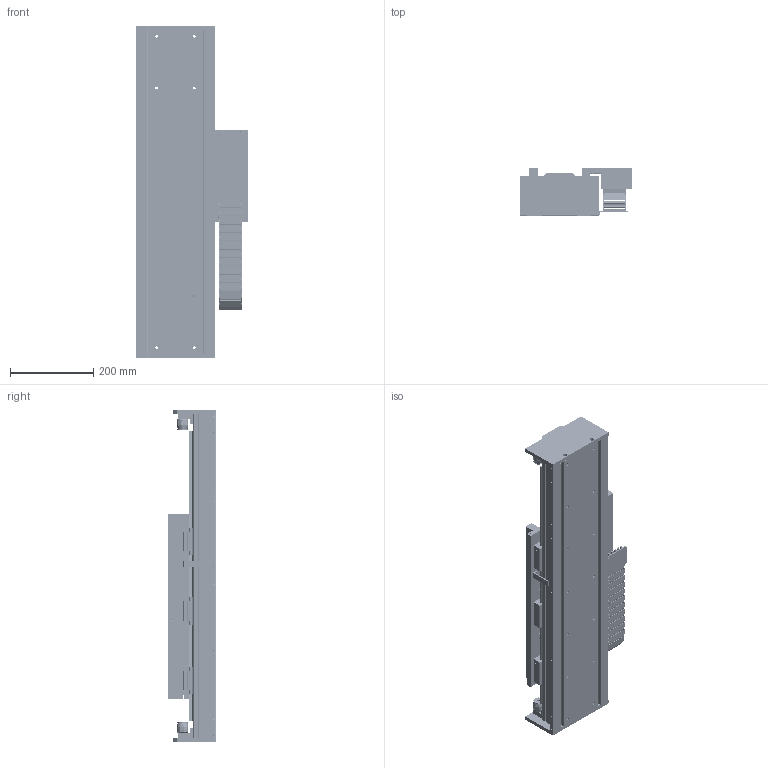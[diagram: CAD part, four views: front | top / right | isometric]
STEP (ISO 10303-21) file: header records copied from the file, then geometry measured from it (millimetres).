
FILE_DESCRIPTION (( 'STEP AP203' ), '1' );
FILE_NAME ('STF50380A-xC1B-Axx.STEP', '2007-10-29T14:44:22', ( 'Yaskawa' ), ( 'Yaskawa' ), 'SwSTEP 2.0', 'SolidWorks 2007', '' );
FILE_SCHEMA (( 'CONFIG_CONTROL_DESIGN' ));
Length unit declared in the file: millimetre
Products named in the file (60): STF50 Large End Stop; STF50-007 End Stop; SGLFW-50A380AP; STF50-005-R2 Cable Router; STCM-R1; STCM-001-R2 Cable Bracket; SSR20W Block; 07.50.038.0_22; STCM-007 Lower E-Chain Bracket; STF50-006 Endplate; STCM-006-R1 Upper E-chain Bracket; Serial Converter; 07.50.038.0_21; 07.50.038.0_30; 07.50.038.0_33; 07.50.038.0_29; 07.50.038.0_37; 07.50.038.0_46; 07.50.038.0_41; 07.50.038.0_45; STF50200 Base_STF50BM-002; SGLFM-50675AC; STF50380A-xC1B-Axx; STF50-001B F50-380 Carriage; STF50-380 Complete Carriage; SSR20 Rail 820_700; Large Bumper; STF50-004 Flag; RGH22B; STF50-003 Renishaw Encoder Bracket; STF50-0028-R1 F50-380 Carriage Horn; STCM-002-R2 Cable Assembly Front; STCM-005-R1 Cable Assembly Cover; STCM-003 Cable Assembly Bottom; STCM-004 Cable Assembly Side; B18.3.1M - 5 x 0.8 x 12 Hex SHCS -- 12NHX_B18.3.1M - 5 x 0.8 x 12 Hex SHCS -- 12NHX; B18.3.1M - 6 x 1.0 x 25 Hex SHCS -- 25NHX_B18.3.1M - 6 x 1.0 x 25 Hex SHCS -- 25NHX; B18.3.4M - 3 x 0.5 x 12 SBHCS --N_B18.3.4M - 3 x 0.5 x 12 SBHCS --N; B18.3.5M - 3 x 0.5 x 12 Socket FCHS  -- 12N_B18.3.5M - 3 x 0.5 x 12 Socket FCHS  -- 12N; 07.50.038.0_27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
Assembly tree (120 placements, depth 4):
  STF50380A-xC1B-Axx
    SSR20 Rail 820_700  x2
    STF50200B
      07.50.038.0_25
      07.50.038.0_23
      07.50.038.0_32
      B18.3.5M - 3 x 0.5 x 6 Socket FCHS  -- 6N_B18.3.5M - 3 x 0.5 x 6 Socket FCHS  -- 6N  x2
      07.50.038.0_40
      07.50.038.0_33
      07.50.038.0_47
      07.50.038.0_27
      07.50.038.0_28
      07.50.038.0_22
      07.50.038.0_46
      07.50.038.0_41
      07.50.038.0_29
      07.50.038.0_35
      07.50.038.0_20
      07.50.038.0_36
      07.50.038.0_38
      07.50.038.0_21
      07.50.038.0_39
      07.50.038.0_44
      07.50.038.0_43
      07.50.038.0_31
      07.50.038.0_34
      07.50.038.0_37
      07.50.038.0_30
      07.50.038.0_45
      07.50.038.0_24
      07.50.038.0_26
      07.50.038.0_42
    STF50 Large End Stop  x4
      STF50-007 End Stop
      Large Bumper
    SGLFM-50675AC
    STF50-006 Endplate  x2
    STF50200 Base_STF50BM-002
    STCM-007 Lower E-Chain Bracket
    STF50-380 Complete Carriage
      B18.3.1M - 5 x 0.8 x 12 Hex SHCS -- 12NHX_B18.3.1M - 5 x 0.8 x 12 Hex SHCS -- 12NHX  x34
      B18.3.5M - 3 x 0.5 x 12 Socket FCHS  -- 12N_B18.3.5M - 3 x 0.5 x 12 Socket FCHS  -- 12N  x6
      SSR20W Block  x6
      B18.3.1M - 6 x 1.0 x 25 Hex SHCS -- 25NHX_B18.3.1M - 6 x 1.0 x 25 Hex SHCS -- 25NHX  x10
      B18.3.4M - 3 x 0.5 x 12 SBHCS --N_B18.3.4M - 3 x 0.5 x 12 SBHCS --N  x3
      RGH22B
      STF50-005-R2 Cable Router
      STF50-0028-R1 F50-380 Carriage Horn  x2
      SGLFW-50A380AP
      STCM-R1
        STCM-004 Cable Assembly Side
        STCM-005-R1 Cable Assembly Cover
        STCM-001-R2 Cable Bracket
        Serial Converter
        STCM-003 Cable Assembly Bottom
        STCM-006-R1 Upper E-chain Bracket
        STCM-002-R2 Cable Assembly Front
      STF50-004 Flag
      STF50-003 Renishaw Encoder Bracket
      STF50-001B F50-380 Carriage
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Bounding box: 269.74 x 115.5 x 799.05 mm (x, y, z)
Volume: 8480235.6 mm3; surface area: 1840183.6 mm2
Topology: 145 solids, 145 shells, 5997 faces, 15107 edges, 9445 vertices
Faces by surface type: plane 3070, cylinder 2123, cone 676, torus 114, bspline 8, sphere 6
Entity records: 129704 total; most frequent: DIRECTION 21682, CARTESIAN_POINT 21327, ORIENTED_EDGE 20144, EDGE_CURVE 10072, AXIS2_PLACEMENT_3D 7594, VERTEX_POINT 6593, VECTOR 6494, LINE 6494
